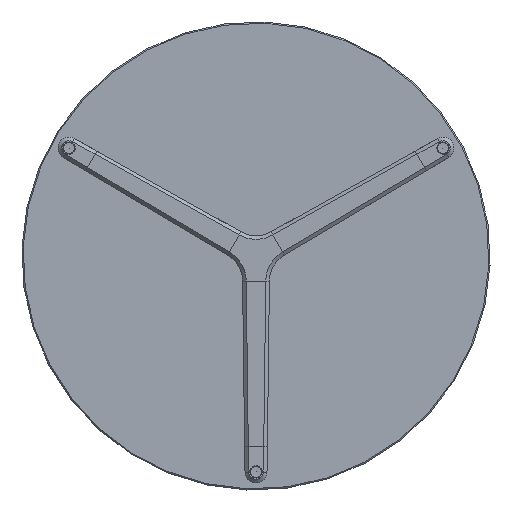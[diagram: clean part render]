
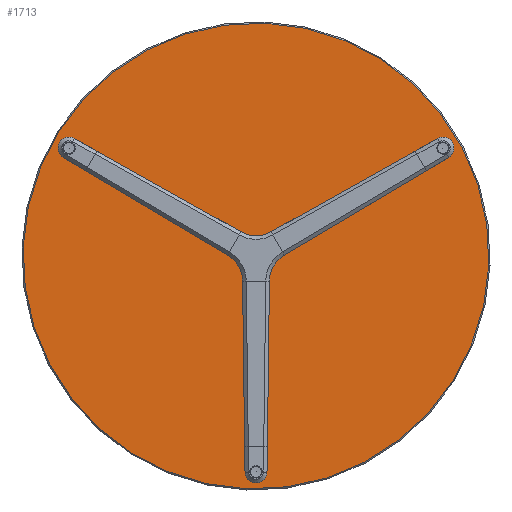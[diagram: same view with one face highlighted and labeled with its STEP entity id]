
A CAD part, front view. The second image highlights one B-rep face of the part: STEP entity #1713.
In plain terms, the highlighted planar face has unit normal (0, -1, 0).
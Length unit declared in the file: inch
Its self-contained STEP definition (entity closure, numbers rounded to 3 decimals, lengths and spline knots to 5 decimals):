
#330=PLANE('',#2135);
#430=FACE_OUTER_BOUND('',#547,.T.);
#547=EDGE_LOOP('',(#1560));
#834=CIRCLE('',#2131,11.9375);
#961=VERTEX_POINT('',#3586);
#1161=EDGE_CURVE('',#961,#961,#834,.T.);
#1560=ORIENTED_EDGE('',*,*,#1161,.F.);
#1713=ADVANCED_FACE('',(#430),#330,.F.);
#2131=AXIS2_PLACEMENT_3D('',#3588,#2652,#2653);
#2135=AXIS2_PLACEMENT_3D('',#3595,#2661,#2662);
#2652=DIRECTION('center_axis',(0.,1.,0.));
#2653=DIRECTION('ref_axis',(1.,0.,0.));
#2661=DIRECTION('center_axis',(0.,1.,0.));
#2662=DIRECTION('ref_axis',(0.,0.,1.));
#3586=CARTESIAN_POINT('',(-11.9375,0.,0.));
#3588=CARTESIAN_POINT('Origin',(0.,0.,0.));
#3595=CARTESIAN_POINT('Origin',(0.,0.,0.));
